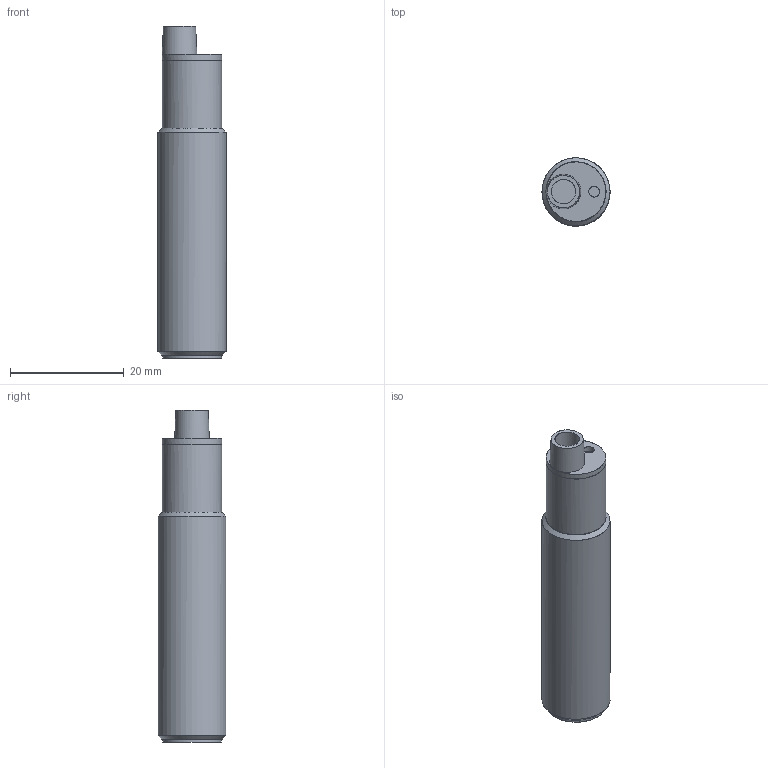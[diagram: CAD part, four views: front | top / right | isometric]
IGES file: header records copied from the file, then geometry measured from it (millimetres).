
Global section: file name: D:\CS\DSD-0282.igs; native system: NX V7.5; preprocessor: SIEMENS PLM Software NX 7.5; date: 20130509.112838; units: millimetre
Bounding box: 12 x 11.97 x 58.5 mm (x, y, z)
Surface area: 2327 mm2 (no closed solid volume)
Topology: 0 solids, 0 shells, 17 faces, 357 edges, 343 vertices
Faces by surface type: bspline 17
